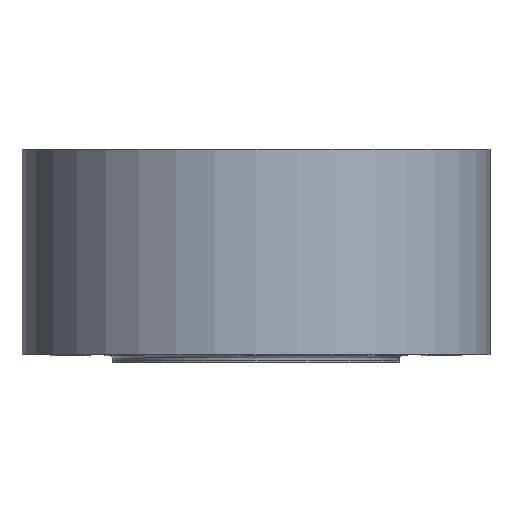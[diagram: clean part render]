
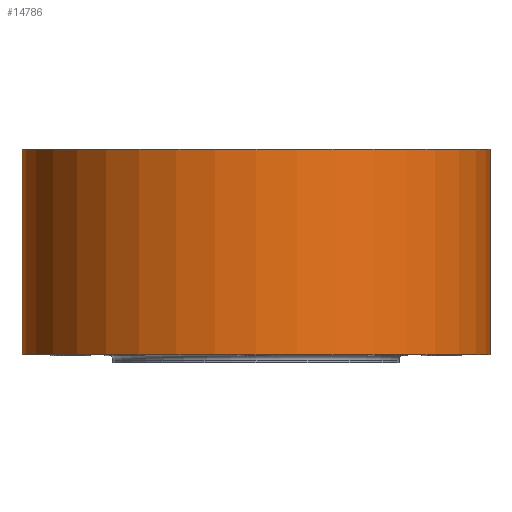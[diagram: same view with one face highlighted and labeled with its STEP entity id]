
A CAD part, front view. The second image highlights one B-rep face of the part: STEP entity #14786.
In plain terms, the highlighted cylindrical face has radius 132.5 mm (diameter 265 mm), a full revolution.
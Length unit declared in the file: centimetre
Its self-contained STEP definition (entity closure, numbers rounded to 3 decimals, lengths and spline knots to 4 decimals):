
#5008=FACE_BOUND('',#6643,.T.);
#5784=FACE_OUTER_BOUND('',#6642,.T.);
#6642=EDGE_LOOP('',(#13959));
#6643=EDGE_LOOP('',(#13960));
#6733=CIRCLE('',#15356,13.25);
#6751=CIRCLE('',#15386,13.25);
#8070=VERTEX_POINT('',#24849);
#8088=VERTEX_POINT('',#24897);
#10046=EDGE_CURVE('',#8070,#8070,#6733,.T.);
#10064=EDGE_CURVE('',#8088,#8088,#6751,.T.);
#13959=ORIENTED_EDGE('',*,*,#10064,.T.);
#13960=ORIENTED_EDGE('',*,*,#10046,.F.);
#14030=CYLINDRICAL_SURFACE('',#15385,13.25);
#14786=ADVANCED_FACE('',(#5784,#5008),#14030,.T.);
#15356=AXIS2_PLACEMENT_3D('',#24850,#18009,#18010);
#15385=AXIS2_PLACEMENT_3D('',#24896,#18067,#18068);
#15386=AXIS2_PLACEMENT_3D('',#24898,#18069,#18070);
#18009=DIRECTION('center_axis',(0.,0.,
1.));
#18010=DIRECTION('ref_axis',(-1.,0.,0.));
#18067=DIRECTION('center_axis',(0.,0.,
1.));
#18068=DIRECTION('ref_axis',(-1.,0.,0.));
#18069=DIRECTION('center_axis',(0.,0.,1.));
#18070=DIRECTION('ref_axis',(-1.,0.,0.));
#24849=CARTESIAN_POINT('',(13.25,0.,9.1));
#24850=CARTESIAN_POINT('Origin',(0.,0.,
9.1));
#24896=CARTESIAN_POINT('Origin',(0.,0.,
6.1));
#24897=CARTESIAN_POINT('',(-13.25,0.,-2.55));
#24898=CARTESIAN_POINT('Origin',(0.,0.,-2.55));
